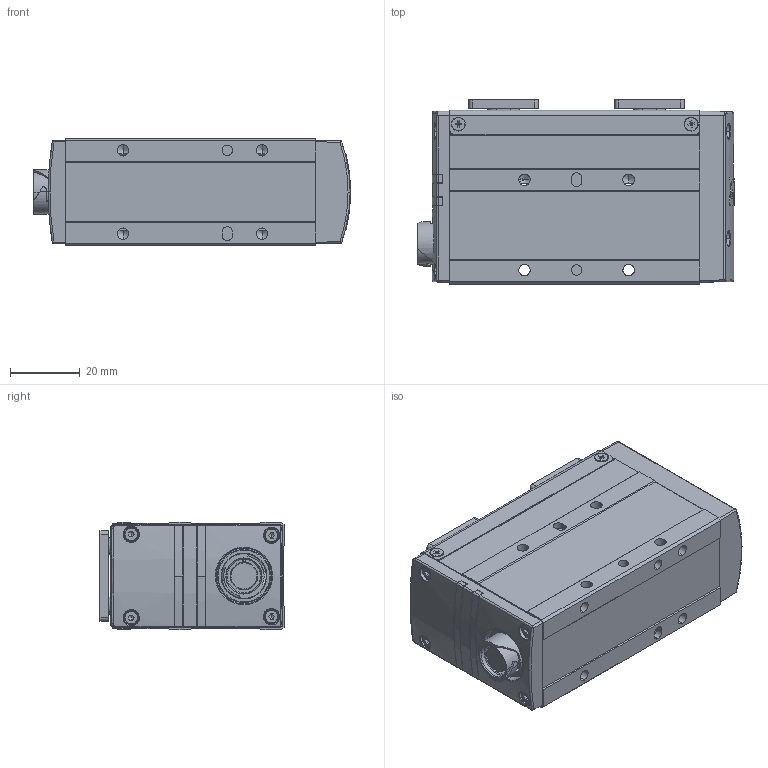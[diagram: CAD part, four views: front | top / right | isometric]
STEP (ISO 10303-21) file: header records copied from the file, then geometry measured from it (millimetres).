
FILE_DESCRIPTION (( 'STEP AP203' ), '1' );
FILE_NAME ('CHS2-S20.STEP', '2019-05-31T00:19:37', ( '' ), ( '' ), 'SwSTEP 2.0', 'SolidWorks 2019', '' );
FILE_SCHEMA (( 'CONFIG_CONTROL_DESIGN' ));
Length unit declared in the file: millimetre
Products named in the file (14): socket head cap screw_iso_ISO 4762 M2 x 6 - 6S_1; 22024-000362_Copy of 預設_機器加工__1; CHS2-S20; 22024-000356_預設_機器加工__1; LF10WBR-12S_1; countersunk flat head cross recess screw_din_DIN EN ISO 7046-1 - M2 x 4 - Z - 4S_1; 22038-000164_預設_機器加工__1; socket head cap screw 4762_din_EN ISO 4762 M2.5 x 6 - 6S_1; 12004-000101-02-X_預設_機器加工__1; 22024-000359_預設_機器加工__1; 12001-000237_1; socket head cap screw 4762_din_EN ISO 4762 M2 x 8 - 8S_1; 組合件5^ASM-20190531267; 組合件6^ASM-20190531267
Assembly tree (27 placements, depth 3):
  CHS2-S20
    12001-000237_1
    22024-000362_Copy of 預設_機器加工__1
    22024-000356_預設_機器加工__1  x2
    socket head cap screw_iso_ISO 4762 M2 x 6 - 6S_1  x4
    22038-000164_預設_機器加工__1
    countersunk flat head cross recess screw_din_DIN EN ISO 7046-1 - M2 x 4 - Z - 4S_1  x4
    22024-000359_預設_機器加工__1
    socket head cap screw 4762_din_EN ISO 4762 M2 x 8 - 8S_1  x4
    LF10WBR-12S_1
    組合件6^ASM-20190531267
      12004-000101-02-X_預設_機器加工__1
      socket head cap screw 4762_din_EN ISO 4762 M2.5 x 6 - 6S_1  x2
    組合件5^ASM-20190531267
      12004-000101-02-X_預設_機器加工__1
      socket head cap screw 4762_din_EN ISO 4762 M2.5 x 6 - 6S_1  x2
Bounding box: 91.2 x 53 x 31 mm (x, y, z)
Volume: 73379.1 mm3; surface area: 41063.7 mm2
Topology: 26 solids, 26 shells, 2650 faces, 6269 edges, 3725 vertices
Faces by surface type: cone 1033, cylinder 789, plane 688, bspline 74, torus 66
Entity records: 52597 total; most frequent: CARTESIAN_POINT 19515, ORIENTED_EDGE 6812, DIRECTION 6131, EDGE_CURVE 3406, AXIS2_PLACEMENT_3D 2277, VERTEX_POINT 2140, VECTOR 1577, LINE 1577
